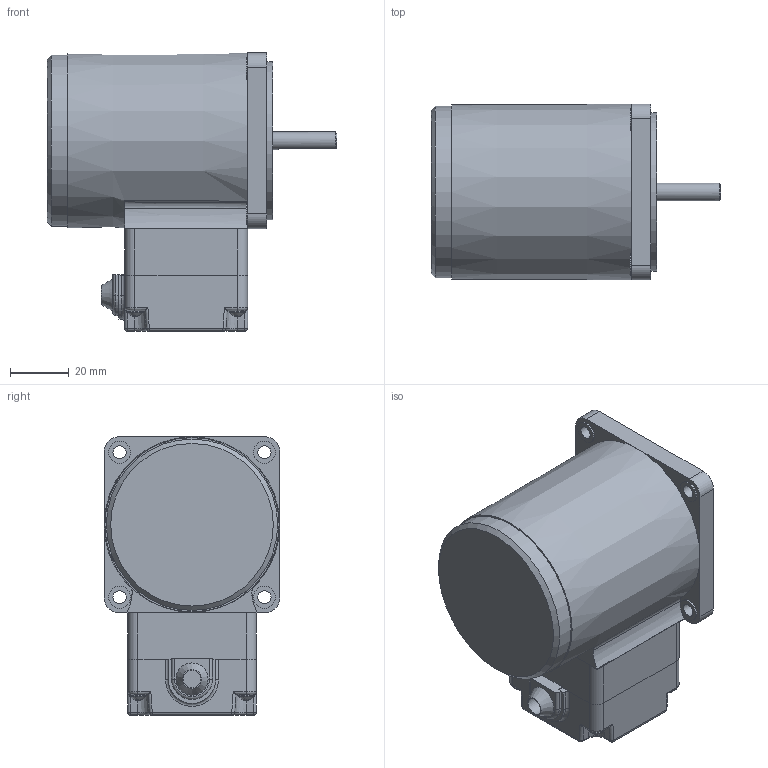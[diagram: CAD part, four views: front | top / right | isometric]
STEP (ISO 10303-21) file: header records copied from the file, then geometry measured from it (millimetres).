
FILE_DESCRIPTION(/* description */ (''),/* implementation_level */ '2;1');
FILE_NAME(/* name */ 'E:\도면작업\2016\0704) 미주향 SG 도면\3D MOTOR\TERMINAL BOX TYPE\INDUCTION TERMINAL BOX\SG6I06D_-T.stp',/* time_stamp */ '2017-01-23T16:16:37+09:00',/* author */ ('jy-jung'),/* organization */ (''),/* preprocessor_version */ 'ST-DEVELOPER v15.6',/* originating_system */ 'Autodesk Inventor 2015',/* authorisation */ '');
FILE_SCHEMA (('AUTOMOTIVE_DESIGN { 1 0 10303 214 3 1 1 }'));
Length unit declared in the file: millimetre
Products named in the file (1): 부품7
Bounding box: 99 x 60 x 95 mm (x, y, z)
Volume: 247305.1 mm3; surface area: 43700.2 mm2
Topology: 1 solids, 6 shells, 549 faces, 1422 edges, 884 vertices
Faces by surface type: plane 272, cylinder 194, torus 34, cone 18, sphere 16, bspline 15
Full cylindrical faces by diameter (mm): 2.5 x2, 3 x4, 3.5 x8, 4.5 x4, 5.6 x4, 6 x2, 7.5 x4, 8 x1, 25 x1, 54 x1, 58.5 x1
Entity records: 17472 total; most frequent: CARTESIAN_POINT 3604, DIRECTION 2820, ORIENTED_EDGE 2688, EDGE_CURVE 1344, AXIS2_PLACEMENT_3D 1019, VERTEX_POINT 875, LINE 782, VECTOR 782
